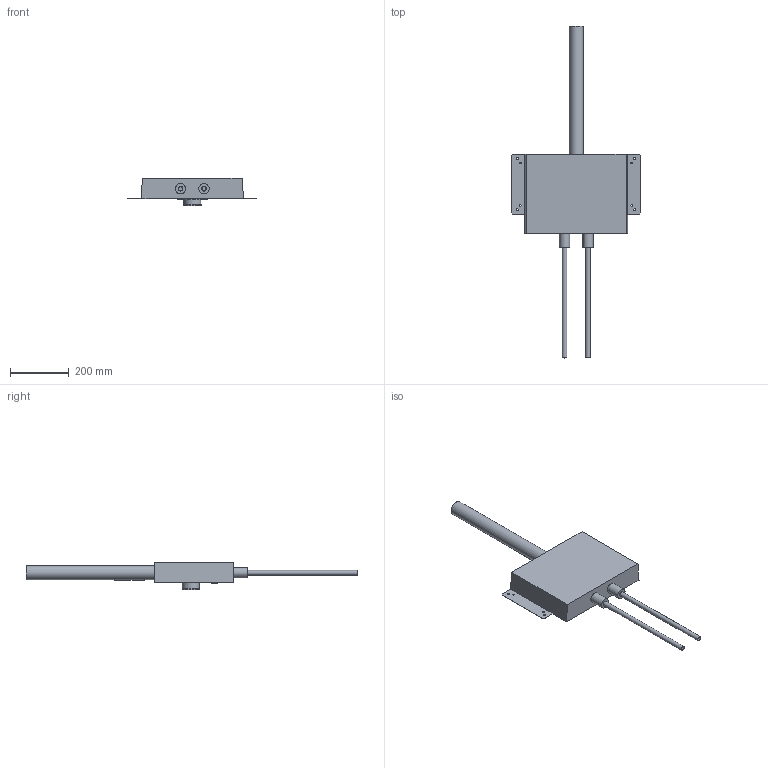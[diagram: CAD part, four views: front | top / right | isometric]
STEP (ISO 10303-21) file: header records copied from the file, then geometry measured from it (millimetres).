
FILE_DESCRIPTION(/* description */ (''),/* implementation_level */ '2;1');
FILE_NAME(/* name */ '\\LG50011\SANHA_Legnica\Engineering\Public\PROJEKTY\SANHA-BOX_Support_BiR\002-Rysunki_Boxów\325WTTO16\Zespół-325WTTO16.stp',/* time_stamp */ '2018-11-05T14:37:31+01:00',/* author */ ('gomulka'),/* organization */ (''),/* preprocessor_version */ 'ST-DEVELOPER v16.13',/* originating_system */ 'Autodesk Inventor 2018',/* authorisation */ '');
FILE_SCHEMA (('AUTOMOTIVE_DESIGN { 1 0 10303 214 3 1 1 }'));
Length unit declared in the file: millimetre
Products named in the file (7): Zespół-325WTTO16; 325WTTO16; Kolano_DN50-OD50_Master3; Rura_50; Rura_16x2; KSBMPDW1; etykieta
Assembly tree (8 placements, depth 2):
  Zespół-325WTTO16
    325WTTO16
    Kolano_DN50-OD50_Master3
    Rura_50
    Rura_16x2  x2
    KSBMPDW1  x2
    etykieta
Bounding box: 440.22 x 1133.01 x 92.27 mm (x, y, z)
Volume: 7031028.7 mm3; surface area: 599982.1 mm2
Topology: 8 solids, 8 shells, 158 faces, 361 edges, 240 vertices
Faces by surface type: plane 107, cylinder 32, bspline 16, cone 3
Full cylindrical faces by diameter (mm): 6.1 x4, 7 x4, 14 x2, 16 x4, 18.631 x2, 21 x2, 30 x1, 35 x2, 35.993 x1, 48.5 x1, 50 x1, 52.269 x1, 54 x1, 55 x2, 58 x1, 60 x1
Entity records: 4265 total; most frequent: CARTESIAN_POINT 875, DIRECTION 600, ORIENTED_EDGE 592, EDGE_CURVE 296, VERTEX_POINT 214, LINE 210, VECTOR 210, EDGE_LOOP 204
